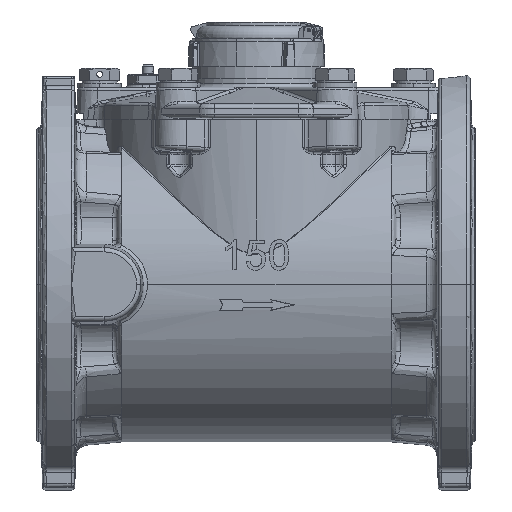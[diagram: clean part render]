
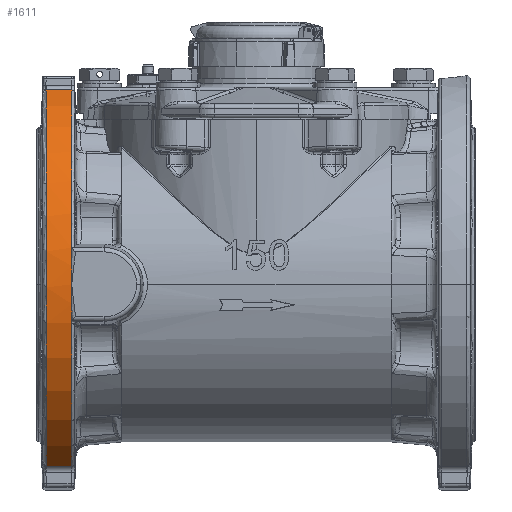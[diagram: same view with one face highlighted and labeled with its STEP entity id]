
A CAD part, top view. The second image highlights one B-rep face of the part: STEP entity #1611.
In plain terms, the highlighted cylindrical face has radius 142.5 mm (diameter 285 mm), a partial arc.
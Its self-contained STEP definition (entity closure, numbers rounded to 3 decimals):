
#1611 = ADVANCED_FACE ( 'NONE', ( #11052 ), #11054, .T. ) ;
#3949 = AXIS2_PLACEMENT_3D ( 'NONE', #83554, #83553, #83552 ) ;
#11052 = FACE_OUTER_BOUND ( 'NONE', #108805, .T. ) ;
#11054 = CYLINDRICAL_SURFACE ( 'NONE', #3949, 142.5 ) ;
#16705 = LINE ( 'NONE', #30084, #39073 ) ;
#16707 = LINE ( 'NONE', #30092, #39078 ) ;
#16709 = LINE ( 'NONE', #30097, #39080 ) ;
#16711 = LINE ( 'NONE', #30107, #39082 ) ;
#30084 = CARTESIAN_POINT ( 'NONE',  ( 0., 132.71, 51.907 ) ) ;
#30085 = DIRECTION ( 'NONE',  ( -1., 0., 0. ) ) ;
#30086 = CARTESIAN_POINT ( 'NONE',  ( -126.059, 0., 0. ) ) ;
#30087 = DIRECTION ( 'NONE',  ( 1., 0., 0. ) ) ;
#30088 = DIRECTION ( 'NONE',  ( 0., 0., -1. ) ) ;
#30089 = CARTESIAN_POINT ( 'NONE',  ( -143.276, 0., 0. ) ) ;
#30090 = DIRECTION ( 'NONE',  ( 1., 0., 0. ) ) ;
#30091 = DIRECTION ( 'NONE',  ( 0., 0., -1. ) ) ;
#30092 = CARTESIAN_POINT ( 'NONE',  ( 0., -123.955, 70.295 ) ) ;
#30093 = DIRECTION ( 'NONE',  ( -1., 0., 0. ) ) ;
#30094 = CARTESIAN_POINT ( 'NONE',  ( -126.059, 0., 0. ) ) ;
#30095 = DIRECTION ( 'NONE',  ( -1., 0., 0. ) ) ;
#30096 = DIRECTION ( 'NONE',  ( 0., 0., 1. ) ) ;
#30097 = CARTESIAN_POINT ( 'NONE',  ( 0., -26.495, 140.015 ) ) ;
#30098 = DIRECTION ( 'NONE',  ( 1., 0., 0. ) ) ;
#30099 = CARTESIAN_POINT ( 'NONE',  ( -126.059, 0., 142.5 ) ) ;
#30100 = CARTESIAN_POINT ( 'NONE',  ( -126.059, -8.896, 142.5 ) ) ;
#30101 = CARTESIAN_POINT ( 'NONE',  ( -126.102, -17.754, 141.669 ) ) ;
#30102 = CARTESIAN_POINT ( 'NONE',  ( -126.189, -26.495, 140.015 ) ) ;
#30103 = CARTESIAN_POINT ( 'NONE',  ( -126.175, 25.05, 140.281 ) ) ;
#30104 = CARTESIAN_POINT ( 'NONE',  ( -126.098, 16.776, 141.758 ) ) ;
#30105 = CARTESIAN_POINT ( 'NONE',  ( -126.059, 8.404, 142.5 ) ) ;
#30106 = CARTESIAN_POINT ( 'NONE',  ( -126.059, 0., 142.5 ) ) ;
#30107 = CARTESIAN_POINT ( 'NONE',  ( -126.059, 25.05, 140.281 ) ) ;
#30108 = DIRECTION ( 'NONE',  ( -1., 0., 0. ) ) ;
#39072 = CIRCLE ( 'NONE', #39074, 142.5 ) ;
#39073 = VECTOR ( 'NONE', #30085, 1000. ) ;
#39074 = AXIS2_PLACEMENT_3D ( 'NONE', #30086, #30087, #30088 ) ;
#39075 = CIRCLE ( 'NONE', #39076, 142.5 ) ;
#39076 = AXIS2_PLACEMENT_3D ( 'NONE', #30089, #30090, #30091 ) ;
#39077 = CIRCLE ( 'NONE', #39079, 142.5 ) ;
#39078 = VECTOR ( 'NONE', #30093, 1000. ) ;
#39079 = AXIS2_PLACEMENT_3D ( 'NONE', #30094, #30095, #30096 ) ;
#39080 = VECTOR ( 'NONE', #30098, 1000. ) ;
#39082 = VECTOR ( 'NONE', #30108, 1000. ) ;
#75615 = CARTESIAN_POINT ( 'NONE',  ( -126.175, 25.05, 140.281 ) ) ;
#75616 = CARTESIAN_POINT ( 'NONE',  ( -126.059, 0., 142.5 ) ) ;
#75617 = CARTESIAN_POINT ( 'NONE',  ( -126.189, -26.495, 140.015 ) ) ;
#75618 = CARTESIAN_POINT ( 'NONE',  ( -126.059, -26.495, 140.015 ) ) ;
#75619 = CARTESIAN_POINT ( 'NONE',  ( -126.059, -123.955, 70.295 ) ) ;
#75620 = CARTESIAN_POINT ( 'NONE',  ( -143.276, -123.955, 70.295 ) ) ;
#75621 = CARTESIAN_POINT ( 'NONE',  ( -143.276, 132.71, 51.907 ) ) ;
#75622 = CARTESIAN_POINT ( 'NONE',  ( -126.059, 25.05, 140.281 ) ) ;
#75623 = CARTESIAN_POINT ( 'NONE',  ( -126.059, 132.71, 51.907 ) ) ;
#76564 =( BOUNDED_CURVE ( )  B_SPLINE_CURVE ( 3, ( #30099, #30100, #30101, #30102 ),
 .UNSPECIFIED., .F., .T. ) 
 B_SPLINE_CURVE_WITH_KNOTS ( ( 4, 4 ),
 ( 0., 0.187 ),
 .UNSPECIFIED. ) 
 CURVE ( )  GEOMETRIC_REPRESENTATION_ITEM ( )  RATIONAL_B_SPLINE_CURVE ( ( 1., 0.997, 0.997, 1. ) ) 
 REPRESENTATION_ITEM ( '' )  );
#76566 =( BOUNDED_CURVE ( )  B_SPLINE_CURVE ( 3, ( #30103, #30104, #30105, #30106 ),
 .UNSPECIFIED., .F., .T. ) 
 B_SPLINE_CURVE_WITH_KNOTS ( ( 4, 4 ),
 ( 6.106, 6.283 ),
 .UNSPECIFIED. ) 
 CURVE ( )  GEOMETRIC_REPRESENTATION_ITEM ( )  RATIONAL_B_SPLINE_CURVE ( ( 1., 0.997, 0.997, 1. ) ) 
 REPRESENTATION_ITEM ( '' )  );
#83552 = DIRECTION ( 'NONE',  ( 0., 0., -1. ) ) ;
#83553 = DIRECTION ( 'NONE',  ( 1., 0., 0. ) ) ;
#83554 = CARTESIAN_POINT ( 'NONE',  ( 0., 0., 0. ) ) ;
#94019 = VERTEX_POINT ( 'NONE', #75615 ) ;
#94020 = VERTEX_POINT ( 'NONE', #75616 ) ;
#94021 = VERTEX_POINT ( 'NONE', #75617 ) ;
#94022 = VERTEX_POINT ( 'NONE', #75618 ) ;
#94023 = VERTEX_POINT ( 'NONE', #75619 ) ;
#94024 = VERTEX_POINT ( 'NONE', #75620 ) ;
#94025 = VERTEX_POINT ( 'NONE', #75621 ) ;
#94026 = VERTEX_POINT ( 'NONE', #75622 ) ;
#94027 = VERTEX_POINT ( 'NONE', #75623 ) ;
#97861 = EDGE_CURVE ( 'NONE', #94027, #94025, #16705, .T. ) ;
#97862 = EDGE_CURVE ( 'NONE', #94027, #94026, #39072, .T. ) ;
#97863 = EDGE_CURVE ( 'NONE', #94025, #94024, #39075, .T. ) ;
#97864 = EDGE_CURVE ( 'NONE', #94023, #94024, #16707, .T. ) ;
#97865 = EDGE_CURVE ( 'NONE', #94023, #94022, #39077, .T. ) ;
#97866 = EDGE_CURVE ( 'NONE', #94021, #94022, #16709, .T. ) ;
#97867 = EDGE_CURVE ( 'NONE', #94020, #94021, #76564, .T. ) ;
#97868 = EDGE_CURVE ( 'NONE', #94019, #94020, #76566, .T. ) ;
#97869 = EDGE_CURVE ( 'NONE', #94026, #94019, #16711, .T. ) ;
#99530 = ORIENTED_EDGE ( 'NONE', *, *, #97862, .F. ) ;
#99531 = ORIENTED_EDGE ( 'NONE', *, *, #97863, .T. ) ;
#99532 = ORIENTED_EDGE ( 'NONE', *, *, #97861, .T. ) ;
#99533 = ORIENTED_EDGE ( 'NONE', *, *, #97864, .F. ) ;
#99534 = ORIENTED_EDGE ( 'NONE', *, *, #97865, .T. ) ;
#99535 = ORIENTED_EDGE ( 'NONE', *, *, #97866, .F. ) ;
#99536 = ORIENTED_EDGE ( 'NONE', *, *, #97867, .F. ) ;
#99537 = ORIENTED_EDGE ( 'NONE', *, *, #97868, .F. ) ;
#99538 = ORIENTED_EDGE ( 'NONE', *, *, #97869, .F. ) ;
#108805 = EDGE_LOOP ( 'NONE', ( #99530, #99532, #99531, #99533, #99534, #99535, #99536, #99537, #99538 ) ) ;
